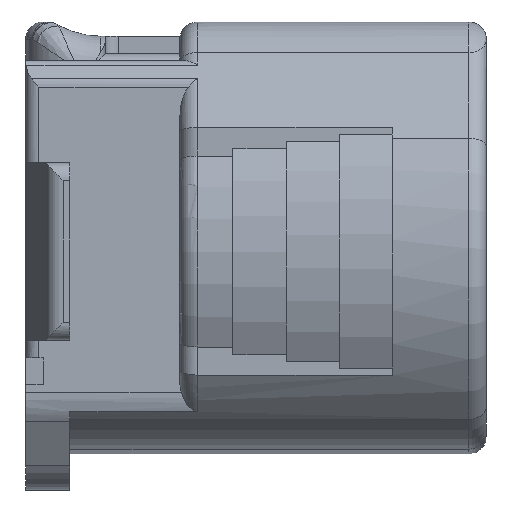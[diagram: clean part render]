
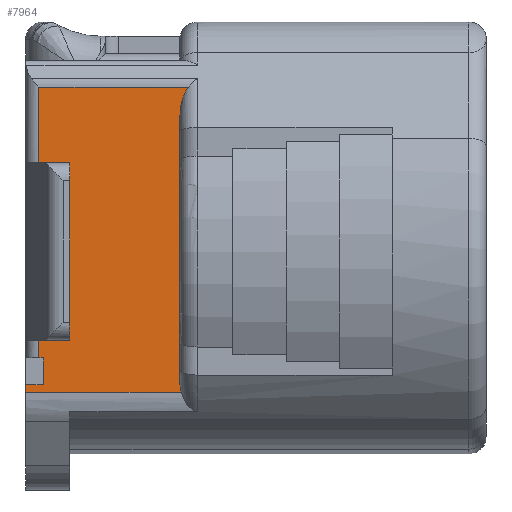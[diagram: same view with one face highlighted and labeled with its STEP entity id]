
A CAD part, front view. The second image highlights one B-rep face of the part: STEP entity #7964.
In plain terms, the highlighted planar face has unit normal (0, -1, 0).
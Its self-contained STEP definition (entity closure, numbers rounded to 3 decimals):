
#6321=CARTESIAN_POINT('Vertex',(-24.,-6.,-12.281)) ;
#6324=CARTESIAN_POINT('Line Origine',(-24.,-6.,-12.066)) ;
#6328=CARTESIAN_POINT('Vertex',(-24.,-6.,-11.85)) ;
#6445=CARTESIAN_POINT('Line Origine',(-23.5,-6.,-11.85)) ;
#6449=CARTESIAN_POINT('Vertex',(-23.,-6.,-11.85)) ;
#6468=CARTESIAN_POINT('Vertex',(-21.5,-6.,-9.35)) ;
#6471=CARTESIAN_POINT('Line Origine',(-21.5,-6.,-4.35)) ;
#6475=CARTESIAN_POINT('Vertex',(-21.5,-6.,0.65)) ;
#6496=CARTESIAN_POINT('Vertex',(-15.3,-6.,-11.668)) ;
#6510=CARTESIAN_POINT('Vertex',(-15.3,-6.,3.228)) ;
#6513=CARTESIAN_POINT('Line Origine',(-15.3,-6.,-4.22)) ;
#6761=CARTESIAN_POINT('Line Origine',(-19.,-6.,-12.281)) ;
#6765=CARTESIAN_POINT('Vertex',(-15.218,-6.,-12.281)) ;
#6811=CARTESIAN_POINT('Control Point',(-15.3,-6.,-11.668)) ;
#6812=CARTESIAN_POINT('Control Point',(-15.3,-6.,-11.874)) ;
#6813=CARTESIAN_POINT('Control Point',(-15.275,-6.,-12.082)) ;
#6814=CARTESIAN_POINT('Control Point',(-15.218,-6.,-12.281)) ;
#7749=CARTESIAN_POINT('Line Origine',(-23.,-6.,-11.1)) ;
#7753=CARTESIAN_POINT('Vertex',(-23.,-6.,-10.35)) ;
#7817=CARTESIAN_POINT('Line Origine',(-23.125,-6.,-10.35)) ;
#7821=CARTESIAN_POINT('Vertex',(-23.25,-6.,-10.35)) ;
#7848=CARTESIAN_POINT('Vertex',(-23.25,-6.,-9.35)) ;
#7851=CARTESIAN_POINT('Line Origine',(-22.375,-6.,-9.35)) ;
#7890=CARTESIAN_POINT('Line Origine',(-22.375,-6.,0.65)) ;
#7894=CARTESIAN_POINT('Vertex',(-23.25,-6.,0.65)) ;
#7910=CARTESIAN_POINT('Axis2P3D Location',(-0.5,-6.,5.201)) ;
#7916=CARTESIAN_POINT('Control Point',(-15.3,-6.,3.228)) ;
#7917=CARTESIAN_POINT('Control Point',(-15.3,-6.,3.412)) ;
#7918=CARTESIAN_POINT('Control Point',(-15.289,-6.,3.595)) ;
#7919=CARTESIAN_POINT('Control Point',(-15.268,-6.,3.777)) ;
#7920=CARTESIAN_POINT('Control Point',(-15.215,-6.,4.067)) ;
#7921=CARTESIAN_POINT('Control Point',(-15.127,-6.,4.347)) ;
#7922=CARTESIAN_POINT('Control Point',(-15.089,-6.,4.451)) ;
#7923=CARTESIAN_POINT('Control Point',(-15.018,-6.,4.614)) ;
#7924=CARTESIAN_POINT('Control Point',(-14.928,-6.,4.767)) ;
#7925=CARTESIAN_POINT('Control Point',(-14.891,-6.,4.823)) ;
#7926=CARTESIAN_POINT('Control Point',(-14.851,-6.,4.877)) ;
#7927=CARTESIAN_POINT('Control Point',(-14.807,-6.,4.928)) ;
#7928=CARTESIAN_POINT('Vertex',(-14.807,-6.,4.928)) ;
#7931=CARTESIAN_POINT('Line Origine',(-19.029,-6.,4.928)) ;
#7935=CARTESIAN_POINT('Vertex',(-23.25,-6.,4.928)) ;
#7938=CARTESIAN_POINT('Line Origine',(-23.25,-6.,2.789)) ;
#7943=CARTESIAN_POINT('Line Origine',(-23.25,-6.,-9.85)) ;
#6325=DIRECTION('Vector Direction',(0.,0.,-1.)) ;
#6446=DIRECTION('Vector Direction',(-1.,0.,0.)) ;
#6472=DIRECTION('Vector Direction',(0.,0.,-1.)) ;
#6514=DIRECTION('Vector Direction',(0.,0.,-1.)) ;
#6762=DIRECTION('Vector Direction',(1.,0.,0.)) ;
#7750=DIRECTION('Vector Direction',(0.,0.,-1.)) ;
#7818=DIRECTION('Vector Direction',(-1.,0.,0.)) ;
#7852=DIRECTION('Vector Direction',(1.,0.,0.)) ;
#7891=DIRECTION('Vector Direction',(1.,0.,0.)) ;
#7911=DIRECTION('Axis2P3D Direction',(0.,1.,0.)) ;
#7912=DIRECTION('Axis2P3D XDirection',(0.,0.,-1.)) ;
#7932=DIRECTION('Vector Direction',(-1.,0.,0.)) ;
#7939=DIRECTION('Vector Direction',(0.,0.,-1.)) ;
#7944=DIRECTION('Vector Direction',(0.,0.,-1.)) ;
#7913=AXIS2_PLACEMENT_3D('Plane Axis2P3D',#7910,#7911,#7912) ;
#7949=ORIENTED_EDGE('',*,*,#7930,.F.) ;
#7950=ORIENTED_EDGE('',*,*,#7937,.T.) ;
#7951=ORIENTED_EDGE('',*,*,#7942,.F.) ;
#7952=ORIENTED_EDGE('',*,*,#7896,.T.) ;
#7953=ORIENTED_EDGE('',*,*,#6477,.T.) ;
#7954=ORIENTED_EDGE('',*,*,#7855,.F.) ;
#7955=ORIENTED_EDGE('',*,*,#7947,.F.) ;
#7956=ORIENTED_EDGE('',*,*,#7823,.F.) ;
#7957=ORIENTED_EDGE('',*,*,#7755,.T.) ;
#7958=ORIENTED_EDGE('',*,*,#6451,.T.) ;
#7959=ORIENTED_EDGE('',*,*,#6330,.T.) ;
#7960=ORIENTED_EDGE('',*,*,#6767,.T.) ;
#7961=ORIENTED_EDGE('',*,*,#6815,.F.) ;
#7962=ORIENTED_EDGE('',*,*,#6517,.F.) ;
#6326=VECTOR('Line Direction',#6325,1.) ;
#6447=VECTOR('Line Direction',#6446,1.) ;
#6473=VECTOR('Line Direction',#6472,1.) ;
#6515=VECTOR('Line Direction',#6514,1.) ;
#6763=VECTOR('Line Direction',#6762,1.) ;
#7751=VECTOR('Line Direction',#7750,1.) ;
#7819=VECTOR('Line Direction',#7818,1.) ;
#7853=VECTOR('Line Direction',#7852,1.) ;
#7892=VECTOR('Line Direction',#7891,1.) ;
#7933=VECTOR('Line Direction',#7932,1.) ;
#7940=VECTOR('Line Direction',#7939,1.) ;
#7945=VECTOR('Line Direction',#7944,1.) ;
#7964=ADVANCED_FACE('\X2\FF8AFF9FFF70FF82\X0\ \X2\FF8EFF9EFF83FF9EFF68FF70\X0\',(#7963),#7914,.F.) ;
#6810=B_SPLINE_CURVE_WITH_KNOTS('',3,(#6811,#6812,#6813,#6814),.UNSPECIFIED.,.F.,.U.,(4,4),(0.,0.873),.UNSPECIFIED.) ;
#7915=B_SPLINE_CURVE_WITH_KNOTS('',5,(#7916,#7917,#7918,#7919,#7920,#7921,#7922,#7923,#7924,#7925,#7926,#7927),.UNSPECIFIED.,.F.,.U.,(6,3,3,6),(0.,1.296,2.076,2.548),.UNSPECIFIED.) ;
#6330=EDGE_CURVE('',#6329,#6322,#6327,.T.) ;
#6451=EDGE_CURVE('',#6450,#6329,#6448,.T.) ;
#6477=EDGE_CURVE('',#6476,#6469,#6474,.T.) ;
#6517=EDGE_CURVE('',#6511,#6497,#6516,.T.) ;
#6767=EDGE_CURVE('',#6322,#6766,#6764,.T.) ;
#6815=EDGE_CURVE('',#6497,#6766,#6810,.T.) ;
#7755=EDGE_CURVE('',#7754,#6450,#7752,.T.) ;
#7823=EDGE_CURVE('',#7754,#7822,#7820,.T.) ;
#7855=EDGE_CURVE('',#7849,#6469,#7854,.T.) ;
#7896=EDGE_CURVE('',#7895,#6476,#7893,.T.) ;
#7930=EDGE_CURVE('',#7929,#6511,#7915,.F.) ;
#7937=EDGE_CURVE('',#7929,#7936,#7934,.T.) ;
#7942=EDGE_CURVE('',#7895,#7936,#7941,.F.) ;
#7947=EDGE_CURVE('',#7822,#7849,#7946,.F.) ;
#7948=EDGE_LOOP('',(#7949,#7950,#7951,#7952,#7953,#7954,#7955,#7956,#7957,#7958,#7959,#7960,#7961,#7962)) ;
#7963=FACE_OUTER_BOUND('',#7948,.T.) ;
#6327=LINE('Line',#6324,#6326) ;
#6448=LINE('Line',#6445,#6447) ;
#6474=LINE('Line',#6471,#6473) ;
#6516=LINE('Line',#6513,#6515) ;
#6764=LINE('Line',#6761,#6763) ;
#7752=LINE('Line',#7749,#7751) ;
#7820=LINE('Line',#7817,#7819) ;
#7854=LINE('Line',#7851,#7853) ;
#7893=LINE('Line',#7890,#7892) ;
#7934=LINE('Line',#7931,#7933) ;
#7941=LINE('Line',#7938,#7940) ;
#7946=LINE('Line',#7943,#7945) ;
#7914=PLANE('',#7913) ;
#6322=VERTEX_POINT('',#6321) ;
#6329=VERTEX_POINT('',#6328) ;
#6450=VERTEX_POINT('',#6449) ;
#6469=VERTEX_POINT('',#6468) ;
#6476=VERTEX_POINT('',#6475) ;
#6497=VERTEX_POINT('',#6496) ;
#6511=VERTEX_POINT('',#6510) ;
#6766=VERTEX_POINT('',#6765) ;
#7754=VERTEX_POINT('',#7753) ;
#7822=VERTEX_POINT('',#7821) ;
#7849=VERTEX_POINT('',#7848) ;
#7895=VERTEX_POINT('',#7894) ;
#7929=VERTEX_POINT('',#7928) ;
#7936=VERTEX_POINT('',#7935) ;
